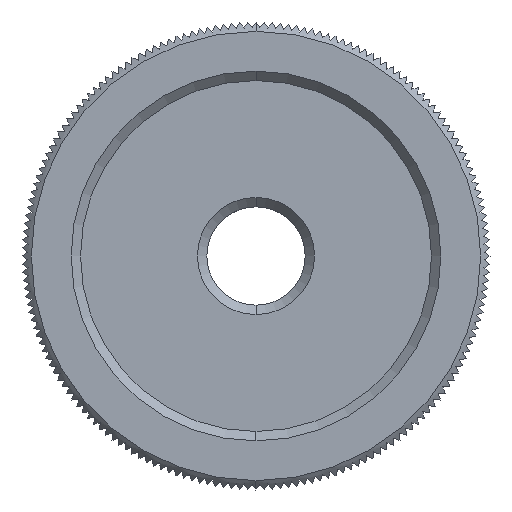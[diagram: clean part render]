
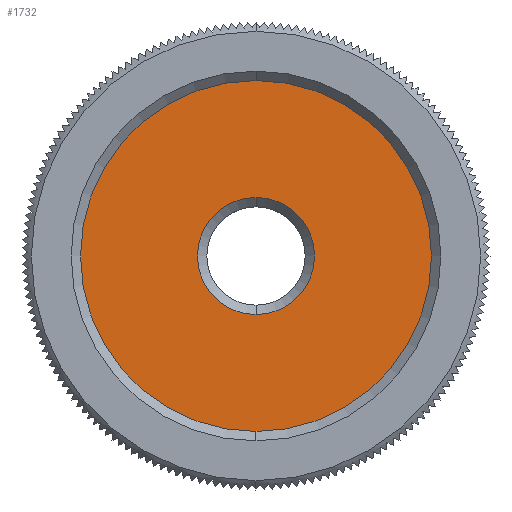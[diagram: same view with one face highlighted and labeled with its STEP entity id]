
A CAD part, left-side view. The second image highlights one B-rep face of the part: STEP entity #1732.
In plain terms, the highlighted planar face has unit normal (-1, 0, 0).
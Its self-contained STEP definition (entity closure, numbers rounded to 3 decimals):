
#92 = VERTEX_POINT ( 'NONE', #3490 ) ;
#318 = EDGE_CURVE ( 'NONE', #9948, #8995, #3895, .T. ) ;
#1717 = EDGE_LOOP ( 'NONE', ( #1720, #1840 ) ) ;
#1720 = ORIENTED_EDGE ( 'NONE', *, *, #318, .T. ) ;
#1732 = ADVANCED_FACE ( 'NONE', ( #6618, #6617 ), #6621, .T. ) ;
#1801 = ORIENTED_EDGE ( 'NONE', *, *, #9965, .T. ) ;
#1808 = EDGE_LOOP ( 'NONE', ( #1812, #1801 ) ) ;
#1811 = EDGE_CURVE ( 'NONE', #9886, #92, #6740, .T. ) ;
#1812 = ORIENTED_EDGE ( 'NONE', *, *, #1811, .T. ) ;
#1838 = EDGE_CURVE ( 'NONE', #8995, #9948, #6766, .T. ) ;
#1840 = ORIENTED_EDGE ( 'NONE', *, *, #1838, .T. ) ;
#3490 = CARTESIAN_POINT ( 'NONE',  ( -3., 0., -7.5 ) ) ;
#3891 = DIRECTION ( 'NONE',  ( 0., 0., 1. ) ) ;
#3892 = DIRECTION ( 'NONE',  ( 1., 0., 0. ) ) ;
#3893 = CARTESIAN_POINT ( 'NONE',  ( -3., 0., 0. ) ) ;
#3894 = AXIS2_PLACEMENT_3D ( 'NONE', #3893, #3892, #3891 ) ;
#3895 = CIRCLE ( 'NONE', #3894, 2.5 ) ;
#6612 = DIRECTION ( 'NONE',  ( 0., 0., 1. ) ) ;
#6613 = DIRECTION ( 'NONE',  ( -1., 0., 0. ) ) ;
#6615 = CARTESIAN_POINT ( 'NONE',  ( -3., 0., 0. ) ) ;
#6616 = AXIS2_PLACEMENT_3D ( 'NONE', #6615, #6613, #6612 ) ;
#6617 = FACE_OUTER_BOUND ( 'NONE', #1808, .T. ) ;
#6618 = FACE_BOUND ( 'NONE', #1717, .T. ) ;
#6621 = PLANE ( 'NONE',  #6616 ) ;
#6737 = DIRECTION ( 'NONE',  ( 0., 0., 1. ) ) ;
#6738 = DIRECTION ( 'NONE',  ( -1., 0., 0. ) ) ;
#6739 = AXIS2_PLACEMENT_3D ( 'NONE', #6743, #6738, #6737 ) ;
#6740 = CIRCLE ( 'NONE', #6739, 7.5 ) ;
#6743 = CARTESIAN_POINT ( 'NONE',  ( -3., 0., 0. ) ) ;
#6762 = DIRECTION ( 'NONE',  ( 0., 0., 1. ) ) ;
#6763 = DIRECTION ( 'NONE',  ( 1., 0., 0. ) ) ;
#6764 = CARTESIAN_POINT ( 'NONE',  ( -3., 0., 0. ) ) ;
#6765 = AXIS2_PLACEMENT_3D ( 'NONE', #6764, #6763, #6762 ) ;
#6766 = CIRCLE ( 'NONE', #6765, 2.5 ) ;
#8995 = VERTEX_POINT ( 'NONE', #11045 ) ;
#9886 = VERTEX_POINT ( 'NONE', #12392 ) ;
#9948 = VERTEX_POINT ( 'NONE', #12484 ) ;
#9965 = EDGE_CURVE ( 'NONE', #92, #9886, #12460, .T. ) ;
#11045 = CARTESIAN_POINT ( 'NONE',  ( -3., 0., -2.5 ) ) ;
#12392 = CARTESIAN_POINT ( 'NONE',  ( -3., 0., 7.5 ) ) ;
#12460 = CIRCLE ( 'NONE', #12525, 7.5 ) ;
#12464 = CARTESIAN_POINT ( 'NONE',  ( -3., 0., 0. ) ) ;
#12484 = CARTESIAN_POINT ( 'NONE',  ( -3., 0., 2.5 ) ) ;
#12523 = DIRECTION ( 'NONE',  ( 0., 0., 1. ) ) ;
#12524 = DIRECTION ( 'NONE',  ( -1., 0., 0. ) ) ;
#12525 = AXIS2_PLACEMENT_3D ( 'NONE', #12464, #12524, #12523 ) ;
